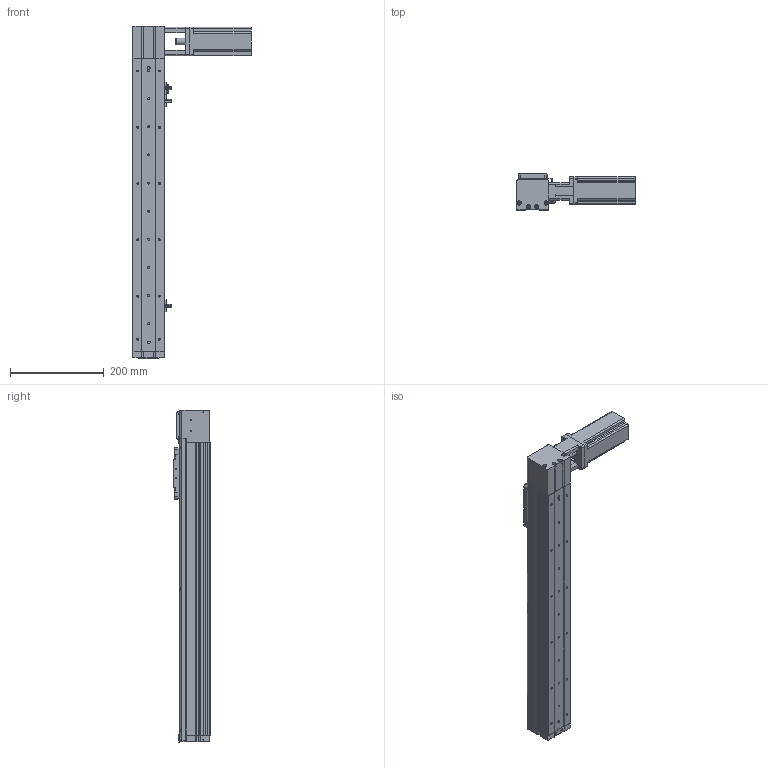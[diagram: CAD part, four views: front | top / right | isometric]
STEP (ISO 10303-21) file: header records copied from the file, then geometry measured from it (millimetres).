
FILE_DESCRIPTION (( 'STEP AP214' ), '1' );
FILE_NAME ('KSD68BS-S450-MRT-CR.STEP', '2019-11-07T06:13:27', ( '微软用户' ), ( '微软中国' ), 'SwSTEP 2.0', 'SolidWorks 2014', '' );
FILE_SCHEMA (( 'AUTOMOTIVE_DESIGN' ));
Length unit declared in the file: millimetre
Products named in the file (13): KSD68BS 450行程盖板全封闭; 68遵裔啣揤啣1; 68宽单导轨全封闭丝杆传动安装板1防护罩; KSD68BS 450行程侧板全封闭; 68宽单导轨全封闭同步带端板; 68单导轨全封闭同步带电机座左; 68单导轨全封闭同步带安装板; 感应片68宽全封闭; U倰嫖萇EEㄜSX672; 台达ECMA－C20604AS伺服电机（400W); KSD68BS 450行程底板全封闭; KSD68BS-S450-MRT-CR; 100遵鎮湛假蚾啣1
Assembly tree (16 placements, depth 2):
  KSD68BS-S450-MRT-CR
    KSD68BS 450行程底板全封闭
    台达ECMA－C20604AS伺服电机（400W)
    U倰嫖萇EEㄜSX672  x3
    感应片68宽全封闭
    68单导轨全封闭同步带安装板
    68单导轨全封闭同步带电机座左
    68宽单导轨全封闭同步带端板
    KSD68BS 450行程侧板全封闭  x2
    68宽单导轨全封闭丝杆传动安装板1防护罩
    68遵裔啣揤啣1  x2
    KSD68BS 450行程盖板全封闭
    100遵鎮湛假蚾啣1
Bounding box: 252.7 x 77 x 708.1 mm (x, y, z)
Volume: 1744554.1 mm3; surface area: 583693.2 mm2
Topology: 17 solids, 17 shells, 1329 faces, 3750 edges, 2408 vertices
Faces by surface type: cylinder 599, plane 594, cone 136
Entity records: 41386 total; most frequent: CARTESIAN_POINT 6969, DIRECTION 6189, ORIENTED_EDGE 5936, EDGE_CURVE 2968, AXIS2_PLACEMENT_3D 2208, VERTEX_POINT 1946, LINE 1773, VECTOR 1773
